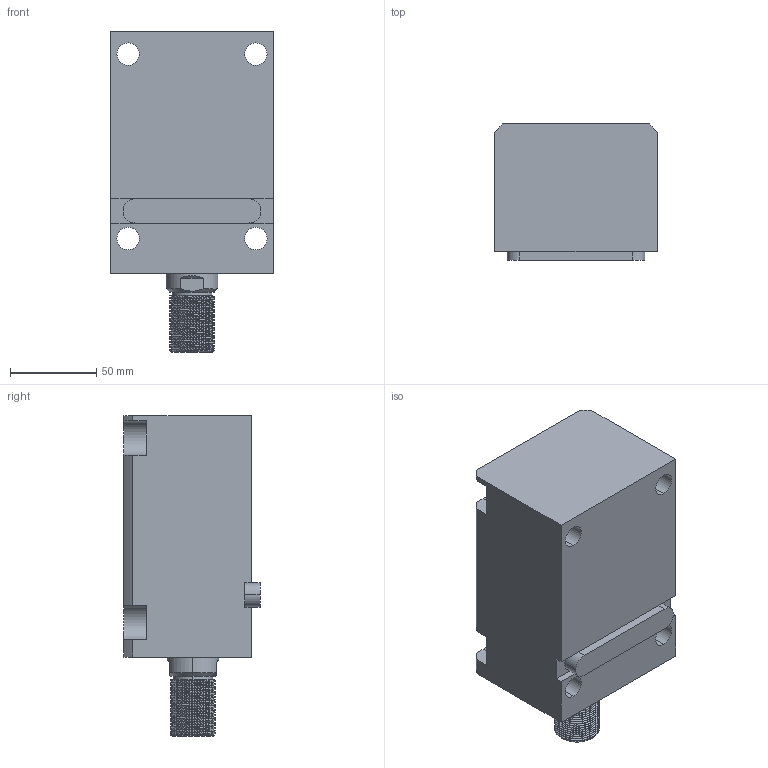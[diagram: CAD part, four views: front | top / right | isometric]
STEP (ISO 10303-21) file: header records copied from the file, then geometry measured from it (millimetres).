
FILE_DESCRIPTION (( 'STEP AP203' ), '1' );
FILE_NAME ('CHTB-LA50-80W.STEP', '2018-05-18T01:50:46', ( '' ), ( '' ), 'SwSTEP 2.0', 'SolidWorks 2015', '' );
FILE_SCHEMA (( 'CONFIG_CONTROL_DESIGN' ));
Length unit declared in the file: millimetre
Products named in the file (4): 活塞杆LA50-80W; CHTM-SDMA50QG; 掛极LA50-80W; CHTB-LA50-80W
Assembly tree (3 placements, depth 2):
  CHTB-LA50-80W
    掛极LA50-80W
    CHTM-SDMA50QG
    活塞杆LA50-80W
Bounding box: 94 x 79 x 186 mm (x, y, z)
Volume: 842760.9 mm3; surface area: 133348.4 mm2
Topology: 3 solids, 3 shells, 244 faces, 670 edges, 447 vertices
Faces by surface type: cylinder 136, plane 55, cone 21, bspline 16, torus 16
Entity records: 15046 total; most frequent: CARTESIAN_POINT 8903, ORIENTED_EDGE 1332, DIRECTION 1073, EDGE_CURVE 666, VERTEX_POINT 447, AXIS2_PLACEMENT_3D 416, EDGE_LOOP 277, ADVANCED_FACE 244
